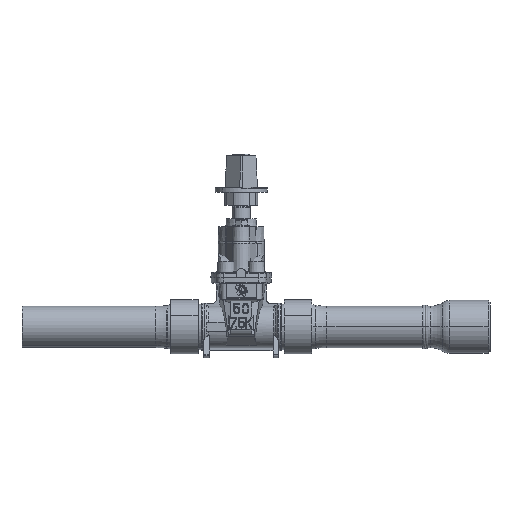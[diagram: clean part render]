
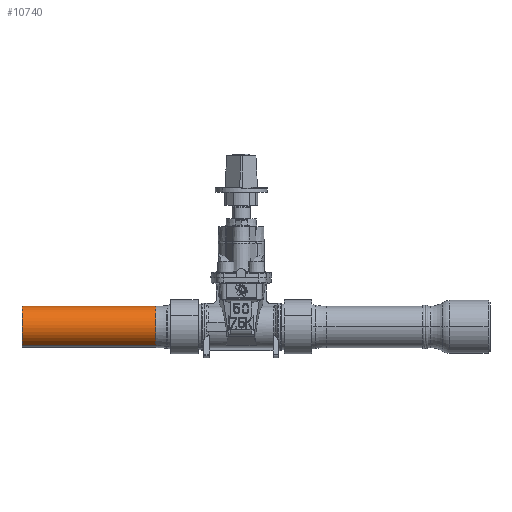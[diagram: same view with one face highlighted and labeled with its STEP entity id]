
A CAD part, top view. The second image highlights one B-rep face of the part: STEP entity #10740.
In plain terms, the highlighted cylindrical face has radius 31.5 mm (diameter 63 mm), a partial arc.
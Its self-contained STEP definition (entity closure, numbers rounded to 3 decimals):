
#437 = LINE ( 'NONE', #6607, #5652 ) ;
#761 = CIRCLE ( 'NONE', #17686, 31.5 ) ;
#1229 = CARTESIAN_POINT ( 'NONE',  ( -1197.95, 0., 0. ) ) ;
#1330 = CARTESIAN_POINT ( 'NONE',  ( -334.95, 28.332, -13.768 ) ) ;
#1479 = FACE_OUTER_BOUND ( 'NONE', #20576, .T. ) ;
#1812 = CARTESIAN_POINT ( 'NONE',  ( -334.95, -28.332, 13.768 ) ) ;
#3407 = CIRCLE ( 'NONE', #6552, 31.5 ) ;
#3410 = VERTEX_POINT ( 'NONE', #3552 ) ;
#3503 = CARTESIAN_POINT ( 'NONE',  ( -130.876, -28.332, 13.768 ) ) ;
#3552 = CARTESIAN_POINT ( 'NONE',  ( -130.876, 28.332, -13.768 ) ) ;
#4945 = VECTOR ( 'NONE', #23328, 1000. ) ;
#5652 = VECTOR ( 'NONE', #21383, 1000. ) ;
#6101 = AXIS2_PLACEMENT_3D ( 'NONE', #1229, #12707, #23774 ) ;
#6509 = EDGE_CURVE ( 'NONE', #7820, #19344, #761, .T. ) ;
#6552 = AXIS2_PLACEMENT_3D ( 'NONE', #12584, #22295, #16400 ) ;
#6607 = CARTESIAN_POINT ( 'NONE',  ( -1197.95, -28.332, 13.768 ) ) ;
#7564 = ORIENTED_EDGE ( 'NONE', *, *, #6509, .F. ) ;
#7703 = ORIENTED_EDGE ( 'NONE', *, *, #17131, .F. ) ;
#7820 = VERTEX_POINT ( 'NONE', #1812 ) ;
#10047 = LINE ( 'NONE', #17560, #4945 ) ;
#10430 = ORIENTED_EDGE ( 'NONE', *, *, #15304, .T. ) ;
#10547 = ORIENTED_EDGE ( 'NONE', *, *, #21298, .T. ) ;
#10727 = DIRECTION ( 'NONE',  ( 0., 0.899, -0.437 ) ) ;
#10740 = ADVANCED_FACE ( 'NONE', ( #1479 ), #16285, .T. ) ;
#12584 = CARTESIAN_POINT ( 'NONE',  ( -130.876, 0., 0. ) ) ;
#12707 = DIRECTION ( 'NONE',  ( -1., 0., 0. ) ) ;
#14914 = VERTEX_POINT ( 'NONE', #3503 ) ;
#15304 = EDGE_CURVE ( 'NONE', #14914, #3410, #3407, .T. ) ;
#16271 = CARTESIAN_POINT ( 'NONE',  ( -334.95, 0., 0. ) ) ;
#16285 = CYLINDRICAL_SURFACE ( 'NONE', #6101, 31.5 ) ;
#16400 = DIRECTION ( 'NONE',  ( 0., 0.899, -0.437 ) ) ;
#17131 = EDGE_CURVE ( 'NONE', #14914, #7820, #437, .T. ) ;
#17560 = CARTESIAN_POINT ( 'NONE',  ( -1197.95, 28.332, -13.768 ) ) ;
#17686 = AXIS2_PLACEMENT_3D ( 'NONE', #16271, #23756, #10727 ) ;
#19344 = VERTEX_POINT ( 'NONE', #1330 ) ;
#20576 = EDGE_LOOP ( 'NONE', ( #7703, #10430, #10547, #7564 ) ) ;
#21298 = EDGE_CURVE ( 'NONE', #3410, #19344, #10047, .T. ) ;
#21383 = DIRECTION ( 'NONE',  ( -1., 0., 0. ) ) ;
#22295 = DIRECTION ( 'NONE',  ( -1., 0., 0. ) ) ;
#23328 = DIRECTION ( 'NONE',  ( -1., 0., 0. ) ) ;
#23756 = DIRECTION ( 'NONE',  ( -1., 0., 0. ) ) ;
#23774 = DIRECTION ( 'NONE',  ( 0., 0.899, -0.437 ) ) ;
